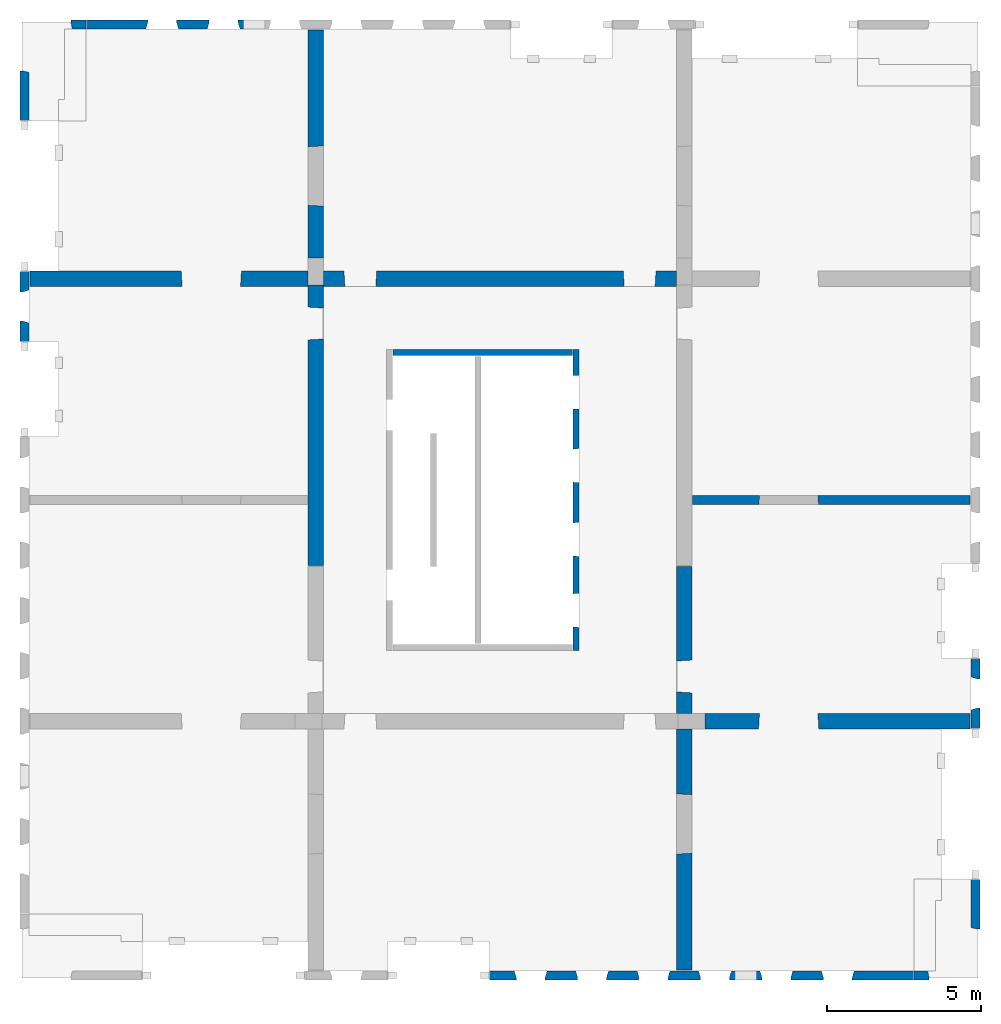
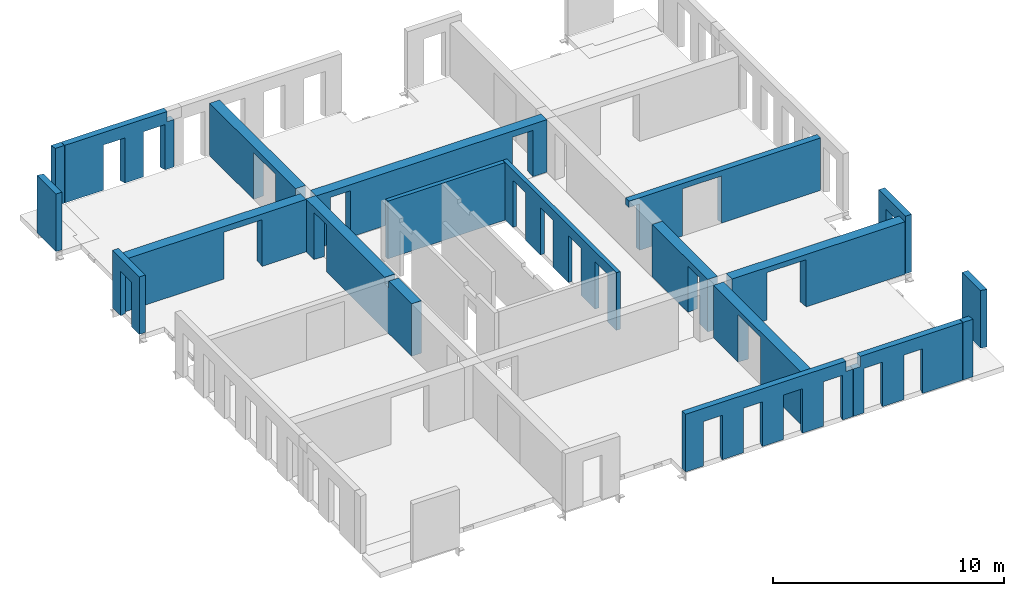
# One storey, part 3 of 4: 19 walls, 32 openings.
"""IFC2X3 building model written with IfcOpenShell, lengths in millimetres."""

import ifcopenshell
import ifcopenshell.guid

model = None  # the IFC model being written
_history = None  # IfcOwnerHistory: only IFC2X3 demands one
_inside = {}  # id of a spatial element -> (the spatial element, [elements in it])
_under = {}  # id of a project, library or spatial element -> (it, [spatial elements below it])
_declared = {}  # id of a project -> (the project, [libraries it declares])
_typed = {}  # id of a type object -> (the type object, [elements of that type])
_made_of = {}  # id of a material, layer set ... -> (it, [elements and type objects made of it])


def new_model(schema):
    """Start an empty IFC model of exactly this schema.

    Asked for "IFC4X3", IfcOpenShell would pick the latest addendum, in which some entities
    have other attributes; the version numbers below select the first issue.
    IFC2X3 requires an IfcOwnerHistory on every rooted entity: one is made here for all.
    """
    global model, _history
    if schema == "IFC4X3":
        model = ifcopenshell.file(schema_version=(4, 3, 0, 0))
    else:
        model = ifcopenshell.file(schema=schema)
    _inside.clear()
    _under.clear()
    _declared.clear()
    _typed.clear()
    _made_of.clear()
    _history = None
    if model.schema == "IFC2X3":
        org = make("IfcOrganization", Name="unknown")
        user = make(
            "IfcPersonAndOrganization",
            ThePerson=make("IfcPerson", FamilyName="unknown"),
            TheOrganization=org,
        )
        app = make(
            "IfcApplication",
            ApplicationDeveloper=org,
            Version="unknown",
            ApplicationFullName="unknown",
            ApplicationIdentifier="unknown",
        )
        _history = make(
            "IfcOwnerHistory",
            OwningUser=user,
            OwningApplication=app,
            ChangeAction="ADDED",
            CreationDate=0,
        )
    return model


def make(cls, **values):
    """One entity of the class cls with the attributes given. An attribute that is None is left unset."""
    return model.create_entity(
        cls, **{name: value for name, value in values.items() if value is not None}
    )


def entity(cls, *values):
    """Any entity or typed value of the class cls, its attributes in the order of the schema. None: left unset."""
    e = model.create_entity(cls)
    for i, value in enumerate(values):
        if value is not None:
            e[i] = value
    return e


def rooted(cls, **values):
    """An entity with a GlobalId (a new one), such as an element, a storey or a relation."""
    return make(cls, GlobalId=ifcopenshell.guid.new(), OwnerHistory=_history, **values)


def si_unit(unit_type, name, prefix=None):
    """IfcSIUnit, for example si_unit("LENGTHUNIT", "METRE", prefix="MILLI")."""
    return make("IfcSIUnit", UnitType=unit_type, Prefix=prefix, Name=name)


def converted_unit(unit_type, name, factor, base, dimensions=None, offset=None):
    """IfcConversionBasedUnit, such as the inch: factor (a typed value) times the base unit."""
    return make(
        "IfcConversionBasedUnit"
        if offset is None
        else "IfcConversionBasedUnitWithOffset",
        ConversionOffset=offset,
        Dimensions=None
        if dimensions is None
        else entity("IfcDimensionalExponents", *dimensions),
        UnitType=unit_type,
        Name=name,
        ConversionFactor=make(
            "IfcMeasureWithUnit", ValueComponent=factor, UnitComponent=base
        ),
    )


def derived_unit(unit_type, elements):
    """IfcDerivedUnit: a product of units, each with its exponent."""
    return make(
        "IfcDerivedUnit",
        Elements=[
            make("IfcDerivedUnitElement", Unit=unit, Exponent=power)
            for unit, power in elements
        ],
        UnitType=unit_type,
    )


def assignment(units):
    """IfcUnitAssignment: the units of a project."""
    return None if units is None else make("IfcUnitAssignment", Units=units)


def point(xyz):
    """IfcCartesianPoint."""
    return None if xyz is None else make("IfcCartesianPoint", Coordinates=xyz)


def direction(xyz):
    """IfcDirection."""
    return None if xyz is None else make("IfcDirection", DirectionRatios=xyz)


def frame(location, z_axis=None, x_axis=None):
    """IfcAxis2Placement3D, a coordinate frame: its origin and axes. An axis left out is left unset."""
    return make(
        "IfcAxis2Placement3D",
        Location=point(location),
        Axis=direction(z_axis),
        RefDirection=direction(x_axis),
    )


def frame_2d(location, x_axis=None):
    """IfcAxis2Placement2D, a coordinate frame in the plane: its origin and x axis."""
    return make(
        "IfcAxis2Placement2D", Location=point(location), RefDirection=direction(x_axis)
    )


def origin():
    """The frame at (0, 0, 0) with its axes left unset."""
    return frame((0.0, 0.0, 0.0))


def place(relative_to, where):
    """IfcLocalPlacement: puts the frame where relative to a parent placement (None: the world)."""
    return make(
        "IfcLocalPlacement", PlacementRelTo=relative_to, RelativePlacement=where
    )


def context(
    kind, dimensions, precision=None, world=None, true_north=None, identifier=None
):
    """IfcGeometricRepresentationContext, for example the 3D "Model" context."""
    return make(
        "IfcGeometricRepresentationContext",
        ContextIdentifier=identifier,
        ContextType=kind,
        CoordinateSpaceDimension=dimensions,
        Precision=precision,
        WorldCoordinateSystem=world,
        TrueNorth=true_north,
    )


def subcontext(parent, identifier, kind, view, scale=None):
    """IfcGeometricRepresentationSubContext, for example "Body" below "Model"."""
    return make(
        "IfcGeometricRepresentationSubContext",
        ContextIdentifier=identifier,
        ContextType=kind,
        ParentContext=parent,
        TargetScale=scale,
        TargetView=view,
    )


def project(units=None, contexts=None):
    """IfcProject with its units and contexts."""
    return rooted(
        "IfcProject",
        Name="project",
        RepresentationContexts=contexts,
        UnitsInContext=assignment(units),
    )


def spatial(cls, under=None, at=None, **own):
    """A site, building, storey or space (cls), placed at a placement, below another one or the project."""
    s = rooted(cls, ObjectPlacement=at, **own)
    if under is not None:
        _under.setdefault(under.id(), (under, []))[1].append(s)
    return s


def profile(cls, at=None, kind="AREA", **sizes):
    """A parametric profile (cls). Its sizes go by their IFC names, for example OverallWidth=200.0."""
    return make(cls, ProfileType=kind, Position=at, **sizes)


def rectangle(**sizes):
    """IfcRectangleProfileDef."""
    return profile("IfcRectangleProfileDef", **sizes)


def extrude(swept, where, along, depth):
    """IfcExtrudedAreaSolid: the profile swept, set in the frame where, extruded along a direction by depth."""
    return make(
        "IfcExtrudedAreaSolid",
        SweptArea=swept,
        Position=where,
        ExtrudedDirection=direction(along),
        Depth=depth,
    )


def faces_of(points, faces, orient=None, outer=None):
    """IfcFace entities. A face is a list of loops; a loop is a list of indices into points, from 0.

    orient and outer hold one flag for each loop. By default every Orientation is true, the
    first loop of a face is its IfcFaceOuterBound and the others are IfcFaceBound.
    """
    made = []
    for i, loops in enumerate(faces):
        bounds = []
        for j, loop in enumerate(loops):
            is_outer = j == 0 if outer is None else outer[i][j]
            bounds.append(
                make(
                    "IfcFaceOuterBound" if is_outer else "IfcFaceBound",
                    Bound=make("IfcPolyLoop", Polygon=[points[k] for k in loop]),
                    Orientation=True if orient is None else orient[i][j],
                )
            )
        made.append(make("IfcFace", Bounds=bounds))
    return made


def faceted_brep(points, faces, orient=None, outer=None, voids=None):
    """IfcFacetedBrep: a solid bounded by flat faces; with voids (closed shells), ...WithVoids."""
    shared = [point(p) for p in points]
    hull = make("IfcClosedShell", CfsFaces=faces_of(shared, faces, orient, outer))
    if voids is None:
        return make("IfcFacetedBrep", Outer=hull)
    return make(
        "IfcFacetedBrepWithVoids",
        Outer=hull,
        Voids=[
            make(cls, CfsFaces=faces_of(shared, fs, o, b)) for cls, fs, o, b in voids
        ],
    )


def shape(context_of_items, identifier, shape_type, items):
    """IfcShapeRepresentation: the items that make up one representation, for example the "Body"."""
    return make(
        "IfcShapeRepresentation",
        ContextOfItems=context_of_items,
        RepresentationIdentifier=identifier,
        RepresentationType=shape_type,
        Items=items,
    )


def material(Name=None, Category=None):
    """IfcMaterial."""
    return make("IfcMaterial", Name=Name, Category=Category)


def layer(
    of_material, thickness, ventilated=None, Name=None, Category=None, Priority=None
):
    """IfcMaterialLayer: one layer of a wall or slab, of a material (None: an air gap)."""
    return make(
        "IfcMaterialLayer",
        Material=of_material,
        LayerThickness=thickness,
        IsVentilated=ventilated,
        Name=Name,
        Category=Category,
        Priority=Priority,
    )


def layer_set(layers, Name=None):
    """IfcMaterialLayerSet."""
    return make("IfcMaterialLayerSet", MaterialLayers=layers, LayerSetName=Name)


def layer_usage(for_layer_set, set_direction, sense, offset, extent=None):
    """IfcMaterialLayerSetUsage: how a layer set lies in its element."""
    return make(
        "IfcMaterialLayerSetUsage",
        ForLayerSet=for_layer_set,
        LayerSetDirection=set_direction,
        DirectionSense=sense,
        OffsetFromReferenceLine=offset,
        ReferenceExtent=extent,
    )


def made_of(thing, what):
    """Note that an element or type object is made of a material, layer set ...; save() writes the relation."""
    if what is not None:
        _made_of.setdefault(what.id(), (what, []))[1].append(thing)
    return thing


def type_object(cls, material=None, **own):
    """A type object (cls), such as IfcWallType, which elements share."""
    return made_of(rooted(cls, **own), material)


def element(
    cls,
    number,
    at=None,
    inside=None,
    cuts=None,
    type_object=None,
    material=None,
    context=None,
    identifier="Body",
    shape_type=None,
    held_by="IfcProductDefinitionShape",
    body=None,
    shapes=None,
    **own,
):
    """One element of the class cls, such as IfcWall. Its Tag is "e" and its number.

    at: its placement. inside: the storey or other place that contains it. cuts: it is an
    opening in that element (IfcRelVoidsElement). A single representation is given by context,
    identifier, shape_type and body (its items); several are given by shapes. held_by: the class
    of the entity that holds the representations. save() writes the other relations.
    """
    e = rooted(cls, Tag="e%d" % number, ObjectPlacement=at, **own)
    if body is not None:
        shapes = [shape(context, identifier, shape_type, body)]
    if shapes is not None:
        e.Representation = make(held_by, Representations=shapes)
    if inside is not None:
        _inside.setdefault(inside.id(), (inside, []))[1].append(e)
    if cuts is not None:
        rooted(
            "IfcRelVoidsElement", RelatingBuildingElement=cuts, RelatedOpeningElement=e
        )
    if type_object is not None:
        _typed.setdefault(type_object.id(), (type_object, []))[1].append(e)
    return made_of(e, material)


def aggregate(whole, parts):
    """IfcRelAggregates: a whole, such as a stair, and the parts it consists of."""
    return rooted("IfcRelAggregates", RelatingObject=whole, RelatedObjects=parts)


def save(model, path):
    """Write the relations noted so far, then the file.

    IfcRelAggregates (storeys below a building ...), IfcRelContainedInSpatialStructure (elements
    in a storey), IfcRelDefinesByType, IfcRelAssociatesMaterial and IfcRelDeclares: one each for
    every whole, place, type object, material and project.
    """
    for whole, parts in _under.values():
        aggregate(whole, parts)
    for where, things in _inside.values():
        rooted(
            "IfcRelContainedInSpatialStructure",
            RelatedElements=things,
            RelatingStructure=where,
        )
    for kind, things in _typed.values():
        rooted("IfcRelDefinesByType", RelatedObjects=things, RelatingType=kind)
    for what, things in _made_of.values():
        rooted("IfcRelAssociatesMaterial", RelatedObjects=things, RelatingMaterial=what)
    for by, libraries in _declared.values():
        rooted("IfcRelDeclares", RelatingContext=by, RelatedDefinitions=libraries)
    model.write(path)


model = new_model("IFC2X3")

# Units and contexts
model_context = context("Model", 3, precision=0.01, world=origin(), true_north=direction((6.12303176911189e-17, 1.0)))
body_context = subcontext(model_context, "Body", "Model", "MODEL_VIEW")
ifc_project = project(units=[si_unit("LENGTHUNIT", "METRE", prefix="MILLI"), si_unit("AREAUNIT", "SQUARE_METRE"), si_unit("VOLUMEUNIT", "CUBIC_METRE"), converted_unit("PLANEANGLEUNIT", "DEGREE", entity("IfcRatioMeasure", 0.0174532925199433), si_unit("PLANEANGLEUNIT", "RADIAN"), dimensions=[0, 0, 0, 0, 0, 0, 0]), si_unit("MASSUNIT", "GRAM", prefix="KILO"), derived_unit("MASSDENSITYUNIT", [(si_unit("MASSUNIT", "GRAM", prefix="KILO"), 1), (si_unit("LENGTHUNIT", "METRE"), -3)]), si_unit("TIMEUNIT", "SECOND"), si_unit("FREQUENCYUNIT", "HERTZ"), si_unit("THERMODYNAMICTEMPERATUREUNIT", "DEGREE_CELSIUS"), derived_unit("THERMALTRANSMITTANCEUNIT", [(si_unit("MASSUNIT", "GRAM", prefix="KILO"), 1), (si_unit("THERMODYNAMICTEMPERATUREUNIT", "KELVIN"), -1), (si_unit("TIMEUNIT", "SECOND"), -3)]), derived_unit("VOLUMETRICFLOWRATEUNIT", [(si_unit("LENGTHUNIT", "METRE"), 3), (si_unit("TIMEUNIT", "SECOND"), -1)]), si_unit("ELECTRICCURRENTUNIT", "AMPERE"), si_unit("ELECTRICVOLTAGEUNIT", "VOLT"), si_unit("POWERUNIT", "WATT"), si_unit("FORCEUNIT", "NEWTON", prefix="KILO"), si_unit("ILLUMINANCEUNIT", "LUX"), si_unit("LUMINOUSFLUXUNIT", "LUMEN"), si_unit("LUMINOUSINTENSITYUNIT", "CANDELA"), derived_unit("USERDEFINED", [(si_unit("MASSUNIT", "GRAM", prefix="KILO"), -1), (si_unit("LENGTHUNIT", "METRE"), -2), (si_unit("TIMEUNIT", "SECOND"), 3), (si_unit("LUMINOUSFLUXUNIT", "LUMEN"), 1)]), derived_unit("LINEARVELOCITYUNIT", [(si_unit("LENGTHUNIT", "METRE"), 1), (si_unit("TIMEUNIT", "SECOND"), -1)]), si_unit("PRESSUREUNIT", "PASCAL"), derived_unit("USERDEFINED", [(si_unit("LENGTHUNIT", "METRE"), -2), (si_unit("MASSUNIT", "GRAM", prefix="KILO"), 1), (si_unit("TIMEUNIT", "SECOND"), -2)])], contexts=[model_context])

# Site, building, storey
site_placement = place(None, origin())
site = spatial("IfcSite", under=ifc_project, at=site_placement, Name="Default", CompositionType="ELEMENT")
building_placement = place(site_placement, origin())
building = spatial("IfcBuilding", under=site, at=building_placement, Name="niet gebruiken", CompositionType="ELEMENT")
storey_placement = place(building_placement, frame((0.0, 0.0, 42480.0)))
storey = spatial("IfcBuildingStorey", under=building, at=storey_placement, Name="13 dertiende verdieping", CompositionType="ELEMENT", Elevation=42480.0)

# Wall, openings
ifc_material = material(Name="NLRS_f2_beton prefab")
ifc_layer_1 = layer(ifc_material, 200.0)
ifc_layer_set_1 = layer_set([ifc_layer_1], Name="Basic Wall:NLRS_22.21_WA_beton prefab d=200_gen")
ifc_layer_usage_1 = layer_usage(ifc_layer_set_1, "AXIS2", "NEGATIVE", 100.0)
wall_type_1 = type_object("IfcWallType", Name="Basic Wall:NLRS_22.21_WA_beton prefab d=200_gen", PredefinedType="STANDARD", material=ifc_layer_set_1)
wall_1_placement = place(storey_placement, frame((144230.0, 22400.0, -50.0), z_axis=(0.0, 0.0, 1.0), x_axis=(0.0, -1.0, 0.0)))
wall_1 = element("IfcWallStandardCase", 1, at=wall_1_placement, inside=storey, type_object=wall_type_1, material=ifc_layer_usage_1, Name="Basic Wall:NLRS_22.21_WA_beton prefab d=200_gen", ObjectType="Basic Wall:NLRS_22.21_WA_beton prefab d=200_gen", context=body_context, shape_type="SweptSolid", body=[
    extrude(rectangle(XDim=9800.0, YDim=199.999999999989, at=frame_2d((4900.0, -3.69482222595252e-13), x_axis=(-1.0, 0.0))), origin(), (0.0, 0.0, 1.0), 3040.0),
])
opening_1_placement = place(wall_1_placement, frame((9047.0, -100.0, 0.0)))
element("IfcOpeningElement", 2, at=opening_1_placement, cuts=wall_1, Name="Basic Wall:NLRS_22.21_WA_beton prefab d=200_gen", ObjectType="Opening", context=body_context, shape_type="Brep", body=[
    faceted_brep([(-1104.0, 200.0, 2502.0), (-1104.0, 200.0, 0.0), (-1092.0, 0.0, 0.0), (-1092.0, 0.0, 2490.0), (0.0, 200.0, 0.0), (-12.0, 0.0, 0.0), (-12.0, 0.0, 2490.0), (0.0, 200.0, 2502.0)], [[[0, 1, 2, 3]], [[1, 4, 5, 2]], [[6, 3, 2, 5]], [[7, 4, 1, 0]], [[7, 0, 3, 6]], [[4, 7, 6, 5]]]),
])
opening_2_placement = place(wall_1_placement, frame((6737.0, -100.0, 0.0)))
element("IfcOpeningElement", 3, at=opening_2_placement, cuts=wall_1, Name="Basic Wall:NLRS_22.21_WA_beton prefab d=200_gen", ObjectType="Opening", context=body_context, shape_type="Brep", body=[
    faceted_brep([(-1104.0, 200.0, 2502.0), (-1104.0, 200.0, 0.0), (-1092.0, 0.0, 0.0), (-1092.0, 0.0, 2490.0), (0.0, 200.0, 0.0), (-12.0, 0.0, 0.0), (-12.0, 0.0, 2490.0), (0.0, 200.0, 2502.0)], [[[0, 1, 2, 3]], [[1, 4, 5, 2]], [[6, 3, 2, 5]], [[7, 4, 1, 0]], [[7, 0, 3, 6]], [[4, 7, 6, 5]]]),
])
opening_3_placement = place(wall_1_placement, frame((4332.0, -100.0, 0.0)))
element("IfcOpeningElement", 4, at=opening_3_placement, cuts=wall_1, Name="Basic Wall:NLRS_22.21_WA_beton prefab d=200_gen", ObjectType="Opening", context=body_context, shape_type="Brep", body=[
    faceted_brep([(-1104.0, 200.0, 2502.0), (-1104.0, 200.0, 0.0), (-1092.0, 0.0, 0.0), (-1092.0, 0.0, 2490.0), (0.0, 200.0, 0.0), (-12.0, 0.0, 0.0), (-12.0, 0.0, 2490.0), (0.0, 200.0, 2502.0)], [[[0, 1, 2, 3]], [[1, 4, 5, 2]], [[6, 3, 2, 5]], [[7, 4, 1, 0]], [[7, 0, 3, 6]], [[4, 7, 6, 5]]]),
])
opening_4_placement = place(wall_1_placement, frame((1942.0, -100.0, 0.0)))
element("IfcOpeningElement", 5, at=opening_4_placement, cuts=wall_1, Name="Basic Wall:NLRS_22.21_WA_beton prefab d=200_gen", ObjectType="Opening", context=body_context, shape_type="Brep", body=[
    faceted_brep([(-1104.0, 200.0, 2502.0), (-1104.0, 200.0, 0.0), (-1092.0, 0.0, 0.0), (-1092.0, 0.0, 2490.0), (0.0, 200.0, 0.0), (-12.0, 0.0, 0.0), (-12.0, 0.0, 2490.0), (0.0, 200.0, 2502.0)], [[[0, 1, 2, 3]], [[1, 4, 5, 2]], [[6, 3, 2, 5]], [[7, 4, 1, 0]], [[7, 0, 3, 6]], [[4, 7, 6, 5]]]),
])

# Wall
ifc_layer_usage_2 = layer_usage(ifc_layer_set_1, "AXIS2", "NEGATIVE", 100.0)
wall_2_placement = place(storey_placement, frame((138270.0, 22300.0, -50.0)))
element("IfcWallStandardCase", 6, at=wall_2_placement, inside=storey, type_object=wall_type_1, material=ifc_layer_usage_2, Name="Basic Wall:NLRS_22.21_WA_beton prefab d=200_gen", ObjectType="Basic Wall:NLRS_22.21_WA_beton prefab d=200_gen", context=body_context, shape_type="SweptSolid", body=[
    extrude(rectangle(XDim=5839.99999999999, YDim=199.999999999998, at=frame_2d((2919.99999999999, -7.60280727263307e-13), x_axis=(-1.0, 0.0))), origin(), (0.0, 0.0, 1.0), 3040.0),
])

# Wall, openings
ifc_layer_2 = layer(ifc_material, 300.0)
ifc_layer_set_2 = layer_set([ifc_layer_2], Name="Basic Wall:NLRS_22.21_WA_beton prefab d=300_gen")
ifc_layer_usage_3 = layer_usage(ifc_layer_set_2, "AXIS2", "NEGATIVE", 150.0)
wall_type_2 = type_object("IfcWallType", Name="Basic Wall:NLRS_22.21_WA_beton prefab d=300_gen", PredefinedType="STANDARD", material=ifc_layer_set_2)
wall_3_placement = place(storey_placement, frame((157060.0, 17500.0, -70.0), z_axis=(0.0, 0.0, 1.0), x_axis=(-1.0, 0.0, 0.0)))
wall_3 = element("IfcWallStandardCase", 7, at=wall_3_placement, inside=storey, type_object=wall_type_2, material=ifc_layer_usage_3, Name="Basic Wall:NLRS_22.21_WA_beton prefab d=300_gen", ObjectType="Basic Wall:NLRS_22.21_WA_beton prefab d=300_gen", context=body_context, shape_type="SweptSolid", body=[
    extrude(rectangle(XDim=9559.9999999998, YDim=300.000000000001, at=frame_2d((4779.9999999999, -7.53175299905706e-13), x_axis=(-1.0, 0.0))), origin(), (0.0, 0.0, 1.0), 2769.99999999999),
])
opening_5_placement = place(wall_3_placement, frame((6878.0, 150.0, 0.0)))
element("IfcOpeningElement", 8, at=opening_5_placement, cuts=wall_3, Name="Basic Wall:NLRS_22.21_WA_beton prefab d=300_gen", ObjectType="Opening", context=body_context, shape_type="Brep", body=[
    faceted_brep([(-18.0, -300.0, 2470.0), (-1918.0, -300.0, 2470.0), (-1918.0, -300.0, 0.0), (-18.0, -300.0, 0.0), (0.0, 0.0, 2488.0), (0.0, 0.0, 0.0), (-1936.0, 0.0, 0.0), (-1936.0, 0.0, 2488.0)], [[[0, 1, 2, 3]], [[4, 5, 6, 7]], [[4, 7, 1, 0]], [[7, 6, 2, 1]], [[6, 5, 3, 2]], [[5, 4, 0, 3]]]),
])
opening_6_placement = place(wall_3_placement, origin())
element("IfcOpeningElement", 9, at=opening_6_placement, cuts=wall_3, Name="Basic Wall:NLRS_22.21_WA_beton prefab d=300_gen", ObjectType="Opening", context=body_context, shape_type="SweptSolid", body=[
    extrude(rectangle(XDim=2440.0, YDim=520.000000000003, at=frame_2d((8.64019966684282e-12, 0.0), x_axis=(0.0, 1.0))), frame((9300.0, 150.0, 1220.0), z_axis=(0.0, -1.0, 0.0), x_axis=(1.0, 0.0, 0.0)), (0.0, 0.0, 1.0), 300.0),
])

ifc_layer_3 = layer(ifc_material, 500.0)
ifc_layer_set_3 = layer_set([ifc_layer_3], Name="Basic Wall:NLRS_22.21_WA_beton prefab d=500_gen")
ifc_layer_usage_4 = layer_usage(ifc_layer_set_3, "AXIS2", "NEGATIVE", 250.0)
wall_type_3 = type_object("IfcWallType", Name="Basic Wall:NLRS_22.21_WA_beton prefab d=500_gen", PredefinedType="STANDARD", material=ifc_layer_set_3)
wall_4_placement = place(storey_placement, frame((136000.003540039, 24700.0, -70.0)))
wall_4 = element("IfcWallStandardCase", 10, at=wall_4_placement, inside=storey, type_object=wall_type_3, material=ifc_layer_usage_4, Name="Basic Wall:NLRS_22.21_WA_beton prefab d=500_gen", ObjectType="Basic Wall:NLRS_22.21_WA_beton prefab d=500_gen", context=body_context, shape_type="SweptSolid", body=[
    extrude(rectangle(XDim=11499.9964599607, YDim=499.999999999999, at=frame_2d((5749.99822998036, 0.0), x_axis=(-1.0, 0.0))), origin(), (0.0, 0.0, 1.0), 2770.00000000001),
])
opening_7_placement = place(wall_4_placement, frame((669.996459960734, -250.0, 0.0)))
element("IfcOpeningElement", 11, at=opening_7_placement, cuts=wall_4, Name="Basic Wall:NLRS_22.21_WA_beton prefab d=500_gen", ObjectType="Opening", context=body_context, shape_type="Brep", body=[
    faceted_brep([(1066.0, 500.0, 2478.0), (1036.0, 0.0, 2448.0), (1036.0, 0.0, 0.0), (1066.0, 500.0, 0.0), (30.0, 0.0, 0.0), (0.0, 500.0, 0.0), (30.0, 0.0, 2448.0), (0.0, 500.0, 2478.0)], [[[0, 1, 2, 3]], [[3, 2, 4, 5]], [[6, 4, 2, 1]], [[7, 0, 3, 5]], [[7, 6, 1, 0]], [[5, 4, 6, 7]]]),
])
opening_8_placement = place(wall_4_placement, frame((9763.99645996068, -250.0, 0.0)))
element("IfcOpeningElement", 12, at=opening_8_placement, cuts=wall_4, Name="Basic Wall:NLRS_22.21_WA_beton prefab d=500_gen", ObjectType="Opening", context=body_context, shape_type="Brep", body=[
    faceted_brep([(30.0, 0.0, 2448.0), (30.0, 0.0, 0.0), (1036.0, 0.0, 0.0), (1036.0, 0.0, 2448.0), (0.0, 500.0, 2478.0), (1066.0, 500.0, 2478.0), (1066.0, 500.0, 0.0), (0.0, 500.0, 0.0)], [[[0, 1, 2, 3]], [[4, 5, 6, 7]], [[4, 0, 3, 5]], [[5, 3, 2, 6]], [[6, 2, 1, 7]], [[7, 1, 0, 4]]]),
])

# Wall, opening
ifc_layer_usage_5 = layer_usage(ifc_layer_set_3, "AXIS2", "NEGATIVE", 250.0)
wall_5_placement = place(storey_placement, frame((147750.0, 10050.0, -70.0), z_axis=(0.0, 0.0, 1.0), x_axis=(0.0, -1.0, 0.0)))
wall_5 = element("IfcWallStandardCase", 13, at=wall_5_placement, inside=storey, type_object=wall_type_3, material=ifc_layer_usage_5, Name="Basic Wall:NLRS_22.21_WA_beton prefab d=500_gen", ObjectType="Basic Wall:NLRS_22.21_WA_beton prefab d=500_gen", context=body_context, shape_type="SweptSolid", body=[
    extrude(rectangle(XDim=7859.99999999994, YDim=499.99999999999, at=frame_2d((3929.99999999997, 8.5265128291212e-14), x_axis=(-1.0, 0.0))), origin(), (0.0, 0.0, 1.0), 2769.99999999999),
])
opening_9_placement = place(wall_5_placement, frame((4080.0, -250.0, 0.0)))
element("IfcOpeningElement", 14, at=opening_9_placement, cuts=wall_5, Name="Basic Wall:NLRS_22.21_WA_beton prefab d=500_gen", ObjectType="Opening", context=body_context, shape_type="Brep", body=[
    faceted_brep([(-30.0, 500.0, 2470.0), (-30.0, 500.0, 0.0), (-1930.0, 500.0, 0.0), (-1930.0, 500.0, 2470.0), (0.0, 0.0, 2500.0), (-1960.0, 0.0, 2500.0), (-1960.0, 0.0, 0.0), (0.0, 0.0, 0.0)], [[[0, 1, 2, 3]], [[4, 5, 6, 7]], [[4, 0, 3, 5]], [[5, 3, 2, 6]], [[6, 2, 1, 7]], [[7, 1, 0, 4]]]),
])

ifc_layer_usage_6 = layer_usage(ifc_layer_set_3, "AXIS2", "NEGATIVE", 250.0)
wall_6_placement = place(storey_placement, frame((135500.003540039, 24700.0, -70.0), z_axis=(0.0, 0.0, 1.0), x_axis=(-1.0, 0.0, 0.0)))
wall_6 = element("IfcWallStandardCase", 15, at=wall_6_placement, inside=storey, type_object=wall_type_3, material=ifc_layer_usage_6, Name="Basic Wall:NLRS_22.21_WA_beton prefab d=500_gen", ObjectType="Basic Wall:NLRS_22.21_WA_beton prefab d=500_gen", context=body_context, shape_type="SweptSolid", body=[
    extrude(rectangle(XDim=9060.00354003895, YDim=499.999999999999, at=frame_2d((4530.00177001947, 7.24753590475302e-13), x_axis=(-1.0, 0.0))), origin(), (0.0, 0.0, 1.0), 2769.99999999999),
])
opening_10_placement = place(wall_6_placement, frame((4130.00354003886, 250.0, 0.0)))
element("IfcOpeningElement", 16, at=opening_10_placement, cuts=wall_6, Name="Basic Wall:NLRS_22.21_WA_beton prefab d=500_gen", ObjectType="Opening", context=body_context, shape_type="Brep", body=[
    faceted_brep([(-1930.0, 0.0, 2470.0), (-30.0, 0.0, 2470.0), (-30.0, 0.0, 0.0), (-1930.0, 0.0, 0.0), (-1960.0, -500.0, 2500.0), (-1960.0, -500.0, 0.0), (0.0, -500.0, 0.0), (0.0, -500.0, 2500.0)], [[[0, 1, 2, 3]], [[4, 5, 6, 7]], [[4, 7, 1, 0]], [[7, 6, 2, 1]], [[6, 5, 3, 2]], [[5, 4, 0, 3]]]),
])

ifc_layer_usage_7 = layer_usage(ifc_layer_set_3, "AXIS2", "NEGATIVE", 250.0)
wall_7_placement = place(storey_placement, frame((148430.0, 10300.0, -70.0)))
wall_7 = element("IfcWallStandardCase", 17, at=wall_7_placement, inside=storey, type_object=wall_type_3, material=ifc_layer_usage_7, Name="Basic Wall:NLRS_22.21_WA_beton prefab d=500_gen", ObjectType="Basic Wall:NLRS_22.21_WA_beton prefab d=500_gen", context=body_context, shape_type="SweptSolid", body=[
    extrude(rectangle(XDim=8630.00000000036, YDim=499.999999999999, at=frame_2d((4315.00000000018, 2.70006239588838e-13), x_axis=(-1.0, 0.0))), origin(), (0.0, 0.0, 1.0), 2769.99999999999),
])
opening_11_placement = place(wall_7_placement, frame((1740.0, -250.0, 0.0)))
element("IfcOpeningElement", 18, at=opening_11_placement, cuts=wall_7, Name="Basic Wall:NLRS_22.21_WA_beton prefab d=500_gen", ObjectType="Opening", context=body_context, shape_type="Brep", body=[
    faceted_brep([(30.0, 500.0, 2470.0), (1930.0, 500.0, 2470.0), (1930.0, 500.0, 0.0), (30.0, 500.0, 0.0), (0.0, 0.0, 2500.0), (0.0, 0.0, 0.0), (1960.0, 0.0, 0.0), (1960.0, 0.0, 2500.0)], [[[0, 1, 2, 3]], [[4, 5, 6, 7]], [[4, 7, 1, 0]], [[7, 6, 2, 1]], [[6, 5, 3, 2]], [[5, 4, 0, 3]]]),
])

ifc_layer_usage_8 = layer_usage(ifc_layer_set_3, "AXIS2", "NEGATIVE", 250.0)
wall_8_placement = place(storey_placement, frame((135750.0, 25380.0, -70.0), z_axis=(0.0, 0.0, 1.0), x_axis=(0.0, 1.0, 0.0)))
wall_8 = element("IfcWallStandardCase", 19, at=wall_8_placement, inside=storey, type_object=wall_type_3, material=ifc_layer_usage_8, Name="Basic Wall:NLRS_22.21_WA_beton prefab d=500_gen", ObjectType="Basic Wall:NLRS_22.21_WA_beton prefab d=500_gen", context=body_context, shape_type="SweptSolid", body=[
    extrude(rectangle(XDim=7429.99999999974, YDim=499.99999999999, at=frame_2d((3714.99999999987, -3.65218966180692e-12), x_axis=(-1.0, 0.0))), origin(), (0.0, 0.0, 1.0), 2769.99999999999),
])
opening_12_placement = place(wall_8_placement, frame((1690.0, 250.0, 0.0)))
element("IfcOpeningElement", 20, at=opening_12_placement, cuts=wall_8, Name="Basic Wall:NLRS_22.21_WA_beton prefab d=500_gen", ObjectType="Opening", context=body_context, shape_type="Brep", body=[
    faceted_brep([(1930.0, 0.0, 2470.0), (1930.0, 0.0, 0.0), (30.0, 0.0, 0.0), (30.0, 0.0, 2470.0), (1960.0, -500.0, 2500.0), (0.0, -500.0, 2500.0), (0.0, -500.0, 0.0), (1960.0, -500.0, 0.0)], [[[0, 1, 2, 3]], [[4, 5, 6, 7]], [[4, 0, 3, 5]], [[5, 3, 2, 6]], [[6, 2, 1, 7]], [[7, 1, 0, 4]]]),
])

ifc_layer_usage_9 = layer_usage(ifc_layer_set_3, "AXIS2", "NEGATIVE", 250.0)
wall_9_placement = place(storey_placement, frame((147750.0, 15340.0, -70.0), z_axis=(0.0, 0.0, 1.0), x_axis=(0.0, -1.0, 0.0)))
wall_9 = element("IfcWallStandardCase", 21, at=wall_9_placement, inside=storey, type_object=wall_type_3, material=ifc_layer_usage_9, Name="Basic Wall:NLRS_22.21_WA_beton prefab d=500_gen", ObjectType="Basic Wall:NLRS_22.21_WA_beton prefab d=500_gen", context=body_context, shape_type="SweptSolid", body=[
    extrude(rectangle(XDim=4789.99999999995, YDim=499.99999999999, at=frame_2d((2394.99999999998, 0.0), x_axis=(-1.0, 0.0))), origin(), (0.0, 0.0, 1.0), 2770.00000000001),
])
opening_13_placement = place(wall_9_placement, frame((4120.0, -250.0, 0.0)))
element("IfcOpeningElement", 22, at=opening_13_placement, cuts=wall_9, Name="Basic Wall:NLRS_22.21_WA_beton prefab d=500_gen", ObjectType="Opening", context=body_context, shape_type="Brep", body=[
    faceted_brep([(-1066.0, 500.0, 2478.0), (-1066.0, 500.0, 0.0), (-1036.0, 0.0, 0.0), (-1036.0, 0.0, 2448.0), (0.0, 500.0, 0.0), (-30.0, 0.0, 0.0), (-30.0, 0.0, 2448.0), (0.0, 500.0, 2478.0)], [[[0, 1, 2, 3]], [[1, 4, 5, 2]], [[6, 3, 2, 5]], [[7, 4, 1, 0]], [[7, 0, 3, 6]], [[4, 7, 6, 5]]]),
])

# Wall, openings
ifc_layer_usage_10 = layer_usage(ifc_layer_set_3, "AXIS2", "NEGATIVE", 250.0)
wall_10_placement = place(storey_placement, frame((135750.0, 24500.0, -70.0), z_axis=(0.0, 0.0, 1.0), x_axis=(0.0, -1.0, 0.0)))
wall_10 = element("IfcWallStandardCase", 23, at=wall_10_placement, inside=storey, type_object=wall_type_3, material=ifc_layer_usage_10, Name="Basic Wall:NLRS_22.21_WA_beton prefab d=500_gen", ObjectType="Basic Wall:NLRS_22.21_WA_beton prefab d=500_gen", context=body_context, shape_type="SweptSolid", body=[
    extrude(rectangle(XDim=9140.0, YDim=499.99999999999, at=frame_2d((4570.0, 5.6843418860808e-14), x_axis=(-1.0, 0.0))), origin(), (0.0, 0.0, 1.0), 2770.00000000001),
])
opening_14_placement = place(wall_10_placement, frame((1786.0, -250.0, 0.0)))
element("IfcOpeningElement", 24, at=opening_14_placement, cuts=wall_10, Name="Basic Wall:NLRS_22.21_WA_beton prefab d=500_gen", ObjectType="Opening", context=body_context, shape_type="Brep", body=[
    faceted_brep([(-1066.0, 0.0, 2478.0), (-1036.0, 500.0, 2448.0), (-1036.0, 500.0, 0.0), (-1066.0, 0.0, 0.0), (-30.0, 500.0, 0.0), (0.0, 0.0, 0.0), (-30.0, 500.0, 2448.0), (0.0, 0.0, 2478.0)], [[[0, 1, 2, 3]], [[3, 2, 4, 5]], [[6, 4, 2, 1]], [[7, 0, 3, 5]], [[7, 6, 1, 0]], [[5, 4, 6, 7]]]),
])
opening_15_placement = place(wall_10_placement, origin())
element("IfcOpeningElement", 25, at=opening_15_placement, cuts=wall_10, Name="Basic Wall:NLRS_22.21_WA_beton prefab d=500_gen", ObjectType="Opening", context=body_context, shape_type="SweptSolid", body=[
    extrude(rectangle(XDim=349.999999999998, YDim=340.000000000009, at=frame_2d((0.0, 4.33431068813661e-12), x_axis=(0.0, 1.0))), frame((7000.0, 250.0, 2595.0), z_axis=(0.0, -1.0, 0.0), x_axis=(-1.0, 0.0, 0.0)), (0.0, 0.0, 1.0), 500.0),
])

# Wall, opening
ifc_layer_4 = layer(ifc_material, 300.0)
ifc_layer_set_4 = layer_set([ifc_layer_4], Name="Basic Wall:NLRS_21.21_WA_beton prefab d=300/320_gen")
ifc_layer_usage_11 = layer_usage(ifc_layer_set_4, "AXIS2", "NEGATIVE", 150.0)
wall_type_4 = type_object("IfcWallType", Name="Basic Wall:NLRS_21.21_WA_beton prefab d=300/320_gen", PredefinedType="STANDARD", material=ifc_layer_set_4)
wall_11_placement = place(storey_placement, frame((157230.0, 12360.0, -50.0), z_axis=(0.0, 0.0, 1.0), x_axis=(0.0, -1.0, 0.0)))
wall_11 = element("IfcWallStandardCase", 26, at=wall_11_placement, inside=storey, type_object=wall_type_4, material=ifc_layer_usage_11, Name="Basic Wall:NLRS_21.21_WA_beton prefab d=300/320_gen", ObjectType="Basic Wall:NLRS_21.21_WA_beton prefab d=300/320_gen", context=body_context, shape_type="SweptSolid", body=[
    extrude(rectangle(XDim=2320.00000000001, YDim=300.000000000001, at=frame_2d((1160.0, -8.38440428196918e-12), x_axis=(-1.0, 0.0))), origin(), (0.0, 0.0, 1.0), 3040.0),
])
opening_16_placement = place(wall_11_placement, frame((1695.0, -150.0, -20.0)))
element("IfcOpeningElement", 27, at=opening_16_placement, cuts=wall_11, Name="Basic Wall:NLRS_21.21_WA_beton prefab d=300/320_gen", ObjectType="Opening", context=body_context, shape_type="Brep", body=[
    faceted_brep([(-1070.0, 0.0, 2405.0), (-1070.0, 0.0, 0.0), (0.0, 0.0, 0.0), (0.0, 0.0, 2405.0), (-65.0, 219.0, 2370.0), (-1005.0, 219.0, 2370.0), (-65.0, 219.0, 0.0), (-1005.0, 219.0, 0.0), (-1005.0, 300.0, 0.0), (-65.0, 300.0, 0.0), (-1005.0, 300.0, 2370.0), (-65.0, 300.0, 2370.0)], [[[0, 1, 2, 3]], [[3, 4, 5, 0]], [[2, 6, 4, 3]], [[1, 7, 8, 9, 6, 2]], [[0, 5, 7, 1]], [[10, 11, 9, 8]], [[10, 5, 4, 11]], [[11, 4, 6, 9]], [[8, 7, 5, 10]]]),
])

ifc_layer_usage_12 = layer_usage(ifc_layer_set_4, "AXIS2", "NEGATIVE", 150.0)
wall_12_placement = place(storey_placement, frame((126270.0, 22640.0, -50.0), z_axis=(0.0, 0.0, 1.0), x_axis=(0.0, 1.0, 0.0)))
wall_12 = element("IfcWallStandardCase", 28, at=wall_12_placement, inside=storey, type_object=wall_type_4, material=ifc_layer_usage_12, Name="Basic Wall:NLRS_21.21_WA_beton prefab d=300/320_gen", ObjectType="Basic Wall:NLRS_21.21_WA_beton prefab d=300/320_gen", context=body_context, shape_type="SweptSolid", body=[
    extrude(rectangle(XDim=2320.0, YDim=300.000000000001, at=frame_2d((1160.0, -3.60955709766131e-12), x_axis=(-1.0, 0.0))), origin(), (0.0, 0.0, 1.0), 3040.0),
])
opening_17_placement = place(wall_12_placement, frame((625.0, 150.0, -20.0)))
element("IfcOpeningElement", 29, at=opening_17_placement, cuts=wall_12, Name="Basic Wall:NLRS_21.21_WA_beton prefab d=300/320_gen", ObjectType="Opening", context=body_context, shape_type="Brep", body=[
    faceted_brep([(0.0, -300.0, 2405.0), (0.0, -300.0, 0.0), (1070.0, -300.0, 0.0), (1070.0, -300.0, 2405.0), (1005.0, -81.0, 2370.0), (65.0, -81.0, 2370.0), (1005.0, -81.0, 0.0), (65.0, -81.0, 0.0), (65.0, 0.0, 0.0), (1005.0, 0.0, 0.0), (65.0, 0.0, 2370.0), (1005.0, 0.0, 2370.0)], [[[0, 1, 2, 3]], [[3, 4, 5, 0]], [[2, 6, 4, 3]], [[1, 7, 8, 9, 6, 2]], [[0, 5, 7, 1]], [[10, 11, 9, 8]], [[10, 5, 4, 11]], [[11, 4, 6, 9]], [[8, 7, 5, 10]]]),
])

ifc_layer_usage_13 = layer_usage(ifc_layer_set_4, "AXIS2", "NEGATIVE", 150.0)
wall_13_placement = place(storey_placement, frame((127780.0, 32980.0, -50.0)))
wall_13 = element("IfcWallStandardCase", 30, at=wall_13_placement, inside=storey, type_object=wall_type_4, material=ifc_layer_usage_13, Name="Basic Wall:NLRS_21.21_WA_beton prefab d=300/320_gen", ObjectType="Basic Wall:NLRS_21.21_WA_beton prefab d=300/320_gen", context=body_context, shape_type="SweptSolid", body=[
    extrude(rectangle(XDim=489.999999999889, YDim=300.000000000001, at=frame_2d((244.999999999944, -6.67910171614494e-13), x_axis=(-1.0, 0.0))), origin(), (0.0, 0.0, 1.0), 3040.0),
])
opening_18_placement = place(wall_13_placement, frame((0.0, -250.0, 0.0)))
element("IfcOpeningElement", 31, at=opening_18_placement, cuts=wall_13, Name="Basic Wall:NLRS_21.21_WA_beton prefab d=300/320_gen", ObjectType="Opening", context=body_context, shape_type="Brep", body=[
    faceted_brep([(0.0, 0.0, 3040.0), (65.0, 0.0, 3040.0), (0.0, 319.0, 3040.0), (0.0, 0.0, 0.0), (0.0, 319.0, 0.0), (65.0, 0.0, 0.0)], [[[0, 1, 2]], [[3, 4, 5]], [[1, 0, 3, 5]], [[0, 2, 4, 3]], [[2, 1, 5, 4]]]),
])

ifc_layer_usage_14 = layer_usage(ifc_layer_set_4, "AXIS2", "NEGATIVE", 150.0)
wall_14_placement = place(storey_placement, frame((126270.0, 29840.0, -50.0), z_axis=(0.0, 0.0, 1.0), x_axis=(0.0, 1.0, 0.0)))
wall_14 = element("IfcWallStandardCase", 32, at=wall_14_placement, inside=storey, type_object=wall_type_4, material=ifc_layer_usage_14, Name="Basic Wall:NLRS_21.21_WA_beton prefab d=300/320_gen", ObjectType="Basic Wall:NLRS_21.21_WA_beton prefab d=300/320_gen", context=body_context, shape_type="SweptSolid", body=[
    extrude(rectangle(XDim=1629.99999999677, YDim=300.000000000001, at=frame_2d((814.999999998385, 8.95283847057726e-13), x_axis=(-1.0, 0.0))), origin(), (0.0, 0.0, 1.0), 3040.0),
])
opening_19_placement = place(wall_14_placement, frame((1565.0, 69.0, 0.0)))
element("IfcOpeningElement", 33, at=opening_19_placement, cuts=wall_14, Name="Basic Wall:NLRS_21.21_WA_beton prefab d=300/320_gen", ObjectType="Opening", context=body_context, shape_type="Brep", body=[
    faceted_brep([(65.0, -319.0, 3040.0), (65.0, 0.0, 3040.0), (0.0, -319.0, 3040.0), (65.0, -319.0, 0.0), (0.0, -319.0, 0.0), (65.0, 0.0, 0.0)], [[[0, 1, 2]], [[3, 4, 5]], [[2, 4, 3, 0]], [[0, 3, 5, 1]], [[1, 5, 4, 2]]]),
])

ifc_layer_usage_15 = layer_usage(ifc_layer_set_4, "AXIS2", "NEGATIVE", 150.0)
wall_15_placement = place(storey_placement, frame((155720.0, 2020.0, -50.0), z_axis=(0.0, 0.0, 1.0), x_axis=(-1.0, 0.0, 0.0)))
wall_15 = element("IfcWallStandardCase", 34, at=wall_15_placement, inside=storey, type_object=wall_type_4, material=ifc_layer_usage_15, Name="Basic Wall:NLRS_21.21_WA_beton prefab d=300/320_gen", ObjectType="Basic Wall:NLRS_21.21_WA_beton prefab d=300/320_gen", context=body_context, shape_type="SweptSolid", body=[
    extrude(rectangle(XDim=489.999999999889, YDim=300.0, at=frame_2d((244.999999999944, 4.2632564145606e-14), x_axis=(-1.0, 0.0))), origin(), (0.0, 0.0, 1.0), 3040.0),
])
opening_20_placement = place(wall_15_placement, frame((65.0, 69.0, 0.0)))
element("IfcOpeningElement", 35, at=opening_20_placement, cuts=wall_15, Name="Basic Wall:NLRS_21.21_WA_beton prefab d=300/320_gen", ObjectType="Opening", context=body_context, shape_type="Brep", body=[
    faceted_brep([(-65.0, -319.0, 3040.0), (0.0, -319.0, 3040.0), (-65.0, 0.0, 3040.0), (-65.0, -319.0, 0.0), (-65.0, 0.0, 0.0), (0.0, -319.0, 0.0)], [[[0, 1, 2]], [[3, 4, 5]], [[1, 0, 3, 5]], [[0, 2, 4, 3]], [[2, 1, 5, 4]]]),
])

ifc_layer_usage_16 = layer_usage(ifc_layer_set_4, "AXIS2", "NEGATIVE", 150.0)
wall_16_placement = place(storey_placement, frame((157230.0, 5160.0, -50.0), z_axis=(0.0, 0.0, 1.0), x_axis=(0.0, -1.0, 0.0)))
wall_16 = element("IfcWallStandardCase", 36, at=wall_16_placement, inside=storey, type_object=wall_type_4, material=ifc_layer_usage_16, Name="Basic Wall:NLRS_21.21_WA_beton prefab d=300/320_gen", ObjectType="Basic Wall:NLRS_21.21_WA_beton prefab d=300/320_gen", context=body_context, shape_type="SweptSolid", body=[
    extrude(rectangle(XDim=1629.99999999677, YDim=300.000000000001, at=frame_2d((814.999999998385, 4.76063632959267e-12), x_axis=(-1.0, 0.0))), origin(), (0.0, 0.0, 1.0), 3040.0),
])
opening_21_placement = place(wall_16_placement, frame((1630.0, -250.0, 0.0)))
element("IfcOpeningElement", 37, at=opening_21_placement, cuts=wall_16, Name="Basic Wall:NLRS_21.21_WA_beton prefab d=300/320_gen", ObjectType="Opening", context=body_context, shape_type="Brep", body=[
    faceted_brep([(0.0, 0.0, 3040.0), (0.0, 319.0, 3040.0), (-65.0, 0.0, 3040.0), (0.0, 0.0, 0.0), (-65.0, 0.0, 0.0), (0.0, 319.0, 0.0)], [[[0, 1, 2]], [[3, 4, 5]], [[2, 4, 3, 0]], [[0, 3, 5, 1]], [[1, 5, 4, 2]]]),
])

# Wall, openings
ifc_layer_usage_17 = layer_usage(ifc_layer_set_4, "AXIS2", "NEGATIVE", 150.0)
wall_17_placement = place(storey_placement, frame((128290.0, 32980.0, -50.0)))
wall_17 = element("IfcWallStandardCase", 38, at=wall_17_placement, inside=storey, type_object=wall_type_4, material=ifc_layer_usage_17, Name="Basic Wall:NLRS_21.21_WA_beton prefab d=300/320_gen", ObjectType="Basic Wall:NLRS_21.21_WA_beton prefab d=300/320_gen", context=body_context, shape_type="SweptSolid", body=[
    extrude(rectangle(XDim=5450.00000000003, YDim=300.000000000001, at=frame_2d((2725.00000000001, 8.81072992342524e-13), x_axis=(-1.0, 0.0))), origin(), (0.0, 0.0, 1.0), 3040.0),
])
opening_22_placement = place(wall_17_placement, frame((3925.0, -150.0, -20.0)))
element("IfcOpeningElement", 39, at=opening_22_placement, cuts=wall_17, Name="Basic Wall:NLRS_21.21_WA_beton prefab d=300/320_gen", ObjectType="Opening", context=body_context, shape_type="Brep", body=[
    faceted_brep([(1070.0, 0.0, 2405.0), (0.0, 0.0, 2405.0), (0.0, 0.0, 0.0), (1070.0, 0.0, 0.0), (1005.0, 219.0, 2370.0), (65.0, 219.0, 2370.0), (65.0, 219.0, 0.0), (65.0, 300.0, 0.0), (1005.0, 300.0, 0.0), (1005.0, 219.0, 0.0), (1005.0, 300.0, 2370.0), (65.0, 300.0, 2370.0)], [[[0, 1, 2, 3]], [[1, 0, 4, 5]], [[2, 1, 5, 6]], [[3, 2, 6, 7, 8, 9]], [[0, 3, 9, 4]], [[10, 8, 7, 11]], [[10, 11, 5, 4]], [[11, 7, 6, 5]], [[8, 10, 4, 9]]]),
])
opening_23_placement = place(wall_17_placement, frame((1925.0, -150.0, -20.0)))
element("IfcOpeningElement", 40, at=opening_23_placement, cuts=wall_17, Name="Basic Wall:NLRS_21.21_WA_beton prefab d=300/320_gen", ObjectType="Opening", context=body_context, shape_type="Brep", body=[
    faceted_brep([(1070.0, 0.0, 2405.0), (0.0, 0.0, 2405.0), (0.0, 0.0, 0.0), (1070.0, 0.0, 0.0), (1005.0, 219.0, 2370.0), (65.0, 219.0, 2370.0), (65.0, 219.0, 0.0), (65.0, 300.0, 0.0), (1005.0, 300.0, 0.0), (1005.0, 219.0, 0.0), (1005.0, 300.0, 2370.0), (65.0, 300.0, 2370.0)], [[[0, 1, 2, 3]], [[1, 0, 4, 5]], [[2, 1, 5, 6]], [[3, 2, 6, 7, 8, 9]], [[0, 3, 9, 4]], [[10, 8, 7, 11]], [[10, 11, 5, 4]], [[11, 7, 6, 5]], [[8, 10, 4, 9]]]),
])
opening_24_placement = place(wall_17_placement, origin())
element("IfcOpeningElement", 41, at=opening_24_placement, cuts=wall_17, Name="Basic Wall:NLRS_21.21_WA_beton prefab d=300/320_gen", ObjectType="Opening", context=body_context, shape_type="SweptSolid", body=[
    extrude(rectangle(XDim=534.999999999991, YDim=345.000000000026, at=frame_2d((4.32009983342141e-12, -8.66862137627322e-12), x_axis=(1.0, 0.0))), frame((5277.50000000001, 150.0, 2772.5), z_axis=(0.0, -1.0, 0.0), x_axis=(0.0, 0.0, 1.0)), (0.0, 0.0, 1.0), 300.0),
])

ifc_layer_usage_18 = layer_usage(ifc_layer_set_4, "AXIS2", "NEGATIVE", 150.0)
wall_18_placement = place(storey_placement, frame((155210.0, 2020.0, -50.0), z_axis=(0.0, 0.0, 1.0), x_axis=(-1.0, 0.0, 0.0)))
wall_18 = element("IfcWallStandardCase", 42, at=wall_18_placement, inside=storey, type_object=wall_type_4, material=ifc_layer_usage_18, Name="Basic Wall:NLRS_21.21_WA_beton prefab d=300/320_gen", ObjectType="Basic Wall:NLRS_21.21_WA_beton prefab d=300/320_gen", context=body_context, shape_type="SweptSolid", body=[
    extrude(rectangle(XDim=5450.00000000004, YDim=300.0, at=frame_2d((2725.00000000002, 4.2632564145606e-14), x_axis=(-1.0, 0.0))), origin(), (0.0, 0.0, 1.0), 3040.0),
])
opening_25_placement = place(wall_18_placement, frame((4995.0, 150.0, -20.0)))
element("IfcOpeningElement", 43, at=opening_25_placement, cuts=wall_18, Name="Basic Wall:NLRS_21.21_WA_beton prefab d=300/320_gen", ObjectType="Opening", context=body_context, shape_type="Brep", body=[
    faceted_brep([(0.0, -300.0, 2405.0), (-1070.0, -300.0, 2405.0), (-1070.0, -300.0, 0.0), (0.0, -300.0, 0.0), (-65.0, -81.0, 2370.0), (-1005.0, -81.0, 2370.0), (-1005.0, -81.0, 0.0), (-1005.0, 0.0, 0.0), (-65.0, 0.0, 0.0), (-65.0, -81.0, 0.0), (-65.0, 0.0, 2370.0), (-1005.0, 0.0, 2370.0)], [[[0, 1, 2, 3]], [[1, 0, 4, 5]], [[2, 1, 5, 6]], [[3, 2, 6, 7, 8, 9]], [[0, 3, 9, 4]], [[10, 8, 7, 11]], [[10, 11, 5, 4]], [[11, 7, 6, 5]], [[8, 10, 4, 9]]]),
])
opening_26_placement = place(wall_18_placement, frame((2995.0, 150.0, -20.0)))
element("IfcOpeningElement", 44, at=opening_26_placement, cuts=wall_18, Name="Basic Wall:NLRS_21.21_WA_beton prefab d=300/320_gen", ObjectType="Opening", context=body_context, shape_type="Brep", body=[
    faceted_brep([(0.0, -300.0, 2405.0), (-1070.0, -300.0, 2405.0), (-1070.0, -300.0, 0.0), (0.0, -300.0, 0.0), (-65.0, -81.0, 2370.0), (-1005.0, -81.0, 2370.0), (-1005.0, -81.0, 0.0), (-1005.0, 0.0, 0.0), (-65.0, 0.0, 0.0), (-65.0, -81.0, 0.0), (-65.0, 0.0, 2370.0), (-1005.0, 0.0, 2370.0)], [[[0, 1, 2, 3]], [[1, 0, 4, 5]], [[2, 1, 5, 6]], [[3, 2, 6, 7, 8, 9]], [[0, 3, 9, 4]], [[10, 8, 7, 11]], [[10, 11, 5, 4]], [[11, 7, 6, 5]], [[8, 10, 4, 9]]]),
])
opening_27_placement = place(wall_18_placement, origin())
element("IfcOpeningElement", 45, at=opening_27_placement, cuts=wall_18, Name="Basic Wall:NLRS_21.21_WA_beton prefab d=300/320_gen", ObjectType="Opening", context=body_context, shape_type="SweptSolid", body=[
    extrude(rectangle(XDim=534.999999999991, YDim=345.000000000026, at=frame_2d((4.32009983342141e-12, -8.66862137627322e-12), x_axis=(1.0, 0.0))), frame((5277.50000000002, 150.0, 2772.5), z_axis=(0.0, -1.0, 0.0), x_axis=(0.0, 0.0, 1.0)), (0.0, 0.0, 1.0), 300.0),
])

ifc_layer_usage_19 = layer_usage(ifc_layer_set_4, "AXIS2", "NEGATIVE", 150.0)
wall_19_placement = place(storey_placement, frame((149740.0, 2020.0, -50.0), z_axis=(0.0, 0.0, 1.0), x_axis=(-1.0, 0.0, 0.0)))
wall_19 = element("IfcWallStandardCase", 46, at=wall_19_placement, inside=storey, type_object=wall_type_4, material=ifc_layer_usage_19, Name="Basic Wall:NLRS_21.21_WA_beton prefab d=300/320_gen", ObjectType="Basic Wall:NLRS_21.21_WA_beton prefab d=300/320_gen", context=body_context, shape_type="SweptSolid", body=[
    extrude(rectangle(XDim=8350.00000000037, YDim=300.0, at=frame_2d((4175.00000000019, -1.4210854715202e-14), x_axis=(-1.0, 0.0))), origin(), (0.0, 0.0, 1.0), 3040.0),
])
opening_28_placement = place(wall_19_placement, frame((3525.0, 150.0, -20.0)))
element("IfcOpeningElement", 47, at=opening_28_placement, cuts=wall_19, Name="Basic Wall:NLRS_21.21_WA_beton prefab d=300/320_gen", ObjectType="Opening", context=body_context, shape_type="Brep", body=[
    faceted_brep([(0.0, -300.0, 2405.0), (-1070.0, -300.0, 2405.0), (-1070.0, -300.0, 0.0), (0.0, -300.0, 0.0), (-65.0, -81.0, 2370.0), (-1005.0, -81.0, 2370.0), (-1005.0, -81.0, 0.0), (-1005.0, 0.0, 0.0), (-65.0, 0.0, 0.0), (-65.0, -81.0, 0.0), (-65.0, 0.0, 2370.0), (-1005.0, 0.0, 2370.0)], [[[0, 1, 2, 3]], [[1, 0, 4, 5]], [[2, 1, 5, 6]], [[3, 2, 6, 7, 8, 9]], [[0, 3, 9, 4]], [[10, 8, 7, 11]], [[10, 11, 5, 4]], [[11, 7, 6, 5]], [[8, 10, 4, 9]]]),
])
opening_29_placement = place(wall_19_placement, frame((1525.0, 150.0, -20.0)))
element("IfcOpeningElement", 48, at=opening_29_placement, cuts=wall_19, Name="Basic Wall:NLRS_21.21_WA_beton prefab d=300/320_gen", ObjectType="Opening", context=body_context, shape_type="Brep", body=[
    faceted_brep([(0.0, -300.0, 2405.0), (-1070.0, -300.0, 2405.0), (-1070.0, -300.0, 0.0), (0.0, -300.0, 0.0), (-65.0, -81.0, 2370.0), (-1005.0, -81.0, 2370.0), (-1005.0, -81.0, 0.0), (-1005.0, 0.0, 0.0), (-65.0, 0.0, 0.0), (-65.0, -81.0, 0.0), (-65.0, 0.0, 2370.0), (-1005.0, 0.0, 2370.0)], [[[0, 1, 2, 3]], [[1, 0, 4, 5]], [[2, 1, 5, 6]], [[3, 2, 6, 7, 8, 9]], [[0, 3, 9, 4]], [[10, 8, 7, 11]], [[10, 11, 5, 4]], [[11, 7, 6, 5]], [[8, 10, 4, 9]]]),
])
opening_30_placement = place(wall_19_placement, frame((5525.0, 150.0, -20.0)))
element("IfcOpeningElement", 49, at=opening_30_placement, cuts=wall_19, Name="Basic Wall:NLRS_21.21_WA_beton prefab d=300/320_gen", ObjectType="Opening", context=body_context, shape_type="Brep", body=[
    faceted_brep([(0.0, -300.0, 2405.0), (-1070.0, -300.0, 2405.0), (-1070.0, -300.0, 0.0), (0.0, -300.0, 0.0), (-65.0, -81.0, 2370.0), (-1005.0, -81.0, 2370.0), (-1005.0, -81.0, 0.0), (-1005.0, 0.0, 0.0), (-65.0, 0.0, 0.0), (-65.0, -81.0, 0.0), (-65.0, 0.0, 2370.0), (-1005.0, 0.0, 2370.0)], [[[0, 1, 2, 3]], [[1, 0, 4, 5]], [[2, 1, 5, 6]], [[3, 2, 6, 7, 8, 9]], [[0, 3, 9, 4]], [[10, 8, 7, 11]], [[10, 11, 5, 4]], [[11, 7, 6, 5]], [[8, 10, 4, 9]]]),
])
opening_31_placement = place(wall_19_placement, frame((7525.0, 150.0, -20.0)))
element("IfcOpeningElement", 50, at=opening_31_placement, cuts=wall_19, Name="Basic Wall:NLRS_21.21_WA_beton prefab d=300/320_gen", ObjectType="Opening", context=body_context, shape_type="Brep", body=[
    faceted_brep([(0.0, -300.0, 2405.0), (-1070.0, -300.0, 2405.0), (-1070.0, -300.0, 0.0), (0.0, -300.0, 0.0), (-65.0, -81.0, 2370.0), (-1005.0, -81.0, 2370.0), (-1005.0, -81.0, 0.0), (-1005.0, 0.0, 0.0), (-65.0, 0.0, 0.0), (-65.0, -81.0, 0.0), (-65.0, 0.0, 2370.0), (-1005.0, 0.0, 2370.0)], [[[0, 1, 2, 3]], [[1, 0, 4, 5]], [[2, 1, 5, 6]], [[3, 2, 6, 7, 8, 9]], [[0, 3, 9, 4]], [[10, 8, 7, 11]], [[10, 11, 5, 4]], [[11, 7, 6, 5]], [[8, 10, 4, 9]]]),
])
opening_32_placement = place(wall_19_placement, origin())
element("IfcOpeningElement", 51, at=opening_32_placement, cuts=wall_19, Name="Basic Wall:NLRS_21.21_WA_beton prefab d=300/320_gen", ObjectType="Opening", context=body_context, shape_type="SweptSolid", body=[
    extrude(rectangle(XDim=534.999999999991, YDim=344.999999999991, at=frame_2d((-8.65441052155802e-12, 4.32009983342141e-12), x_axis=(0.0, 1.0))), frame((172.500000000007, 150.0, 2772.50000000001), z_axis=(0.0, -1.0, 0.0), x_axis=(-1.0, 0.0, 0.0)), (0.0, 0.0, 1.0), 300.0),
])

save(model, "model.ifc")
